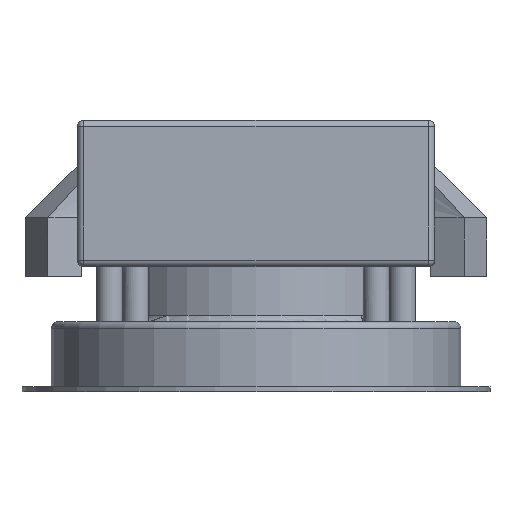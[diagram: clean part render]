
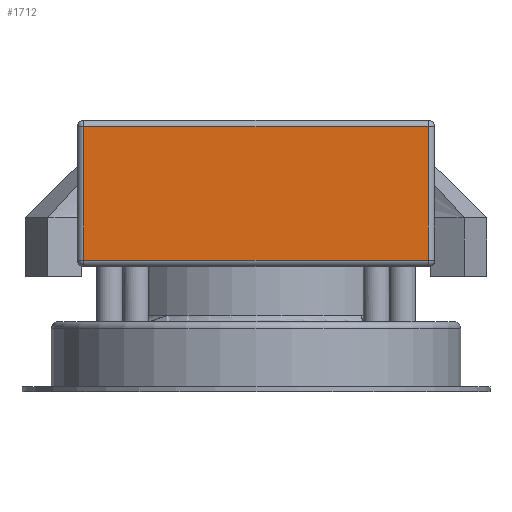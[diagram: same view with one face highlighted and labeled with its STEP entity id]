
A CAD part, front view. The second image highlights one B-rep face of the part: STEP entity #1712.
In plain terms, the highlighted planar face has unit normal (0, -1, 0).
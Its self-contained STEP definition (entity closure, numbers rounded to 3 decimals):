
#71=PLANE('',#1861);
#260=FACE_OUTER_BOUND('',#364,.T.);
#364=EDGE_LOOP('',(#1301,#1302,#1303,#1304));
#462=LINE('',#2534,#614);
#466=LINE('',#2543,#618);
#469=LINE('',#2551,#621);
#473=LINE('',#2560,#625);
#614=VECTOR('',#2040,10.);
#618=VECTOR('',#2050,10.);
#621=VECTOR('',#2059,10.);
#625=VECTOR('',#2069,10.);
#834=VERTEX_POINT('',#2502);
#835=VERTEX_POINT('',#2506);
#839=VERTEX_POINT('',#2514);
#843=VERTEX_POINT('',#2526);
#986=EDGE_CURVE('',#843,#839,#462,.T.);
#991=EDGE_CURVE('',#835,#843,#466,.T.);
#995=EDGE_CURVE('',#839,#834,#469,.T.);
#1000=EDGE_CURVE('',#834,#835,#473,.T.);
#1301=ORIENTED_EDGE('',*,*,#986,.T.);
#1302=ORIENTED_EDGE('',*,*,#995,.T.);
#1303=ORIENTED_EDGE('',*,*,#1000,.T.);
#1304=ORIENTED_EDGE('',*,*,#991,.T.);
#1712=ADVANCED_FACE('',(#260),#71,.F.);
#1861=AXIS2_PLACEMENT_3D('',#2620,#2126,#2127);
#2040=DIRECTION('',(-1.,0.,0.));
#2050=DIRECTION('',(0.,0.,1.));
#2059=DIRECTION('',(0.,0.,-1.));
#2069=DIRECTION('',(1.,0.,0.));
#2126=DIRECTION('center_axis',(0.,1.,0.));
#2127=DIRECTION('ref_axis',(1.,0.,0.));
#2502=CARTESIAN_POINT('',(-43.,-120.,40.5));
#2506=CARTESIAN_POINT('',(63.,-120.,40.5));
#2514=CARTESIAN_POINT('',(-43.,-120.,81.5));
#2526=CARTESIAN_POINT('',(63.,-120.,81.5));
#2534=CARTESIAN_POINT('',(-17.5,-120.,81.5));
#2543=CARTESIAN_POINT('',(63.,-120.,83.5));
#2551=CARTESIAN_POINT('',(-43.,-120.,83.5));
#2560=CARTESIAN_POINT('',(-17.5,-120.,40.5));
#2620=CARTESIAN_POINT('Origin',(-45.,-120.,83.5));
